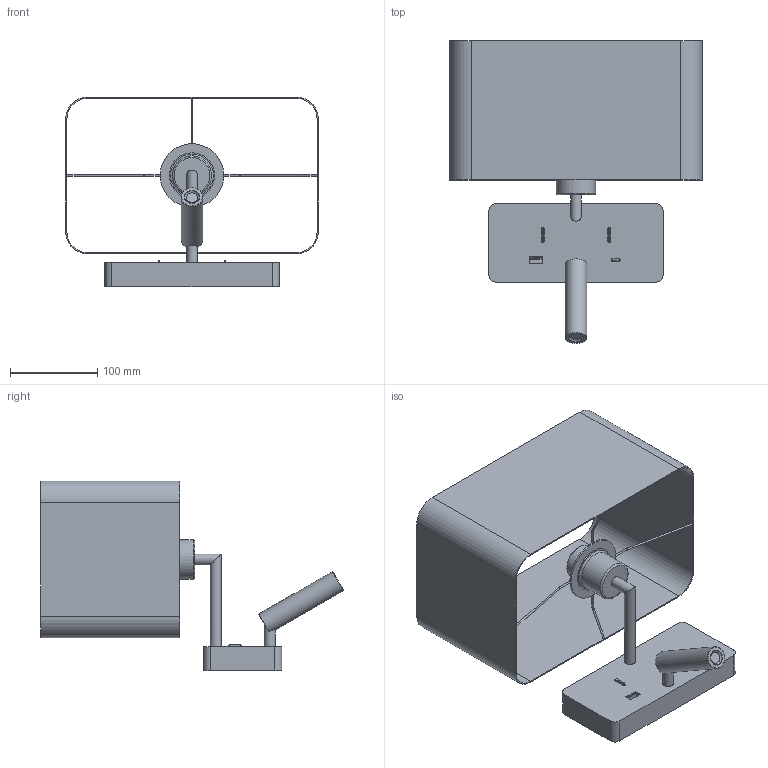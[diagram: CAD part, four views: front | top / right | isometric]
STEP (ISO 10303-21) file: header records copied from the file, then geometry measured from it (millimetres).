
FILE_DESCRIPTION (( 'STEP AP203' ), '1' );
FILE_NAME ('ROMEO-A39710.STEP', '2026-02-06T08:05:06', ( '' ), ( '' ), 'SwSTEP 2.0', 'SolidWorks 2025', '' );
FILE_SCHEMA (( 'CONFIG_CONTROL_DESIGN' ));
Length unit declared in the file: millimetre
Products named in the file (3): STILO_5PANT0034; BASE APLIQUE ROMEO_A3971081; ROMEO-A39710
Assembly tree (2 placements, depth 2):
  ROMEO-A39710
    BASE APLIQUE ROMEO_A3971081
    STILO_5PANT0034
Bounding box: 290 x 347.67 x 218 mm (x, y, z)
Volume: 437182.8 mm3; surface area: 427839 mm2
Topology: 5 solids, 5 shells, 164 faces, 384 edges, 245 vertices
Faces by surface type: plane 94, cylinder 55, torus 9, cone 6
Full cylindrical faces by diameter (mm): 2 x8, 12.5 x3, 25 x1, 28 x1, 40 x1, 40.3 x1, 45 x2, 52 x2
Entity records: 4934 total; most frequent: CARTESIAN_POINT 962, DIRECTION 780, ORIENTED_EDGE 692, EDGE_CURVE 346, AXIS2_PLACEMENT_3D 280, VERTEX_POINT 237, EDGE_LOOP 223, VECTOR 220
